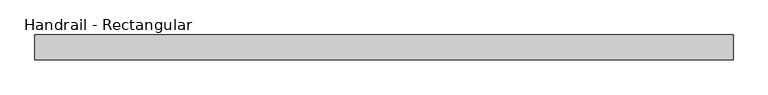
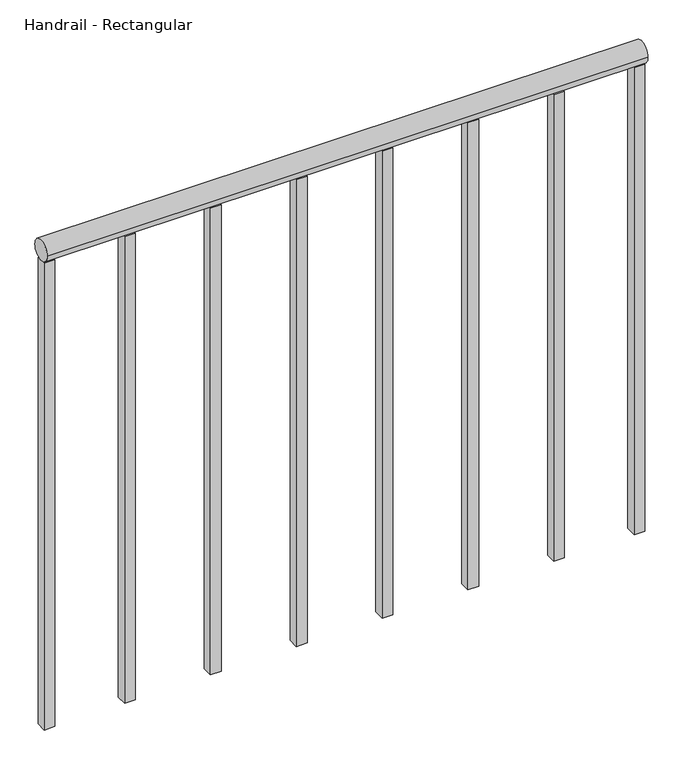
"""IFC4 building model written with IfcOpenShell, lengths in millimetres: railing geometry, Handrail - Rectangular."""

from ifc_helpers import new_model, si_unit, point, frame, frame_2d, origin, place, context, project, spatial, polyline, circle_curve, trimmed, segment, composite_curve, outline, extrude, source, transform, mapped, element, save


def handrail_rectangular_32c2d9bd(model_context):
    return source(origin(), model_context, "Body", "SweptSolid", [
        extrude(outline(composite_curve([segment(trimmed(circle_curve(frame_2d((-35553.1683133, 3943.35)), 19.05), [point((-35572.2183133, 3943.35))], [point((-35534.1183133, 3943.35))], False, "CARTESIAN"), True, "CONTINUOUS"), segment(trimmed(circle_curve(frame_2d((-35553.1683133, 3943.35)), 19.05), [point((-35534.1183133, 3943.35))], [point((-35572.2183133, 3943.35))], False, "CARTESIAN"), True, "CONTINUOUS")], self_intersect=False)), frame((-31964.2839563, 0.0, 0.0), z_axis=(1.0, 0.0, 0.0), x_axis=(0.0, 1.0, 0.0)), (0.0, 0.0, 1.0), 1066.8),
        extrude(outline(polyline([(-31802.3589563, -35543.6433133), (-31802.3589563, -35562.6933133), (-31821.4089563, -35562.6933133), (-31821.4089563, -35543.6433133), (-31802.3589563, -35543.6433133)])), frame((0.0, 0.0, 3048.0), z_axis=(0.0, 0.0, 1.0), x_axis=(1.0, 0.0, 0.0)), (0.0, 0.0, 1.0), 876.3),
        extrude(outline(polyline([(-31649.9589563, -35543.6433133), (-31649.9589563, -35562.6933133), (-31669.0089563, -35562.6933133), (-31669.0089563, -35543.6433133), (-31649.9589563, -35543.6433133)])), frame((0.0, 0.0, 3048.0), z_axis=(0.0, 0.0, 1.0), x_axis=(1.0, 0.0, 0.0)), (0.0, 0.0, 1.0), 876.3),
        extrude(outline(polyline([(-31497.5589563, -35543.6433133), (-31497.5589563, -35562.6933133), (-31516.6089563, -35562.6933133), (-31516.6089563, -35543.6433133), (-31497.5589563, -35543.6433133)])), frame((0.0, 0.0, 3048.0), z_axis=(0.0, 0.0, 1.0), x_axis=(1.0, 0.0, 0.0)), (0.0, 0.0, 1.0), 876.3),
        extrude(outline(polyline([(-31345.1589563, -35543.6433133), (-31345.1589563, -35562.6933133), (-31364.2089563, -35562.6933133), (-31364.2089563, -35543.6433133), (-31345.1589563, -35543.6433133)])), frame((0.0, 0.0, 3048.0), z_axis=(0.0, 0.0, 1.0), x_axis=(1.0, 0.0, 0.0)), (0.0, 0.0, 1.0), 876.3),
        extrude(outline(polyline([(-31192.7589563, -35543.6433133), (-31192.7589563, -35562.6933133), (-31211.8089563, -35562.6933133), (-31211.8089563, -35543.6433133), (-31192.7589563, -35543.6433133)])), frame((0.0, 0.0, 3048.0), z_axis=(0.0, 0.0, 1.0), x_axis=(1.0, 0.0, 0.0)), (0.0, 0.0, 1.0), 876.3),
        extrude(outline(polyline([(-31040.3589563, -35543.6433133), (-31040.3589563, -35562.6933133), (-31059.4089563, -35562.6933133), (-31059.4089563, -35543.6433133), (-31040.3589563, -35543.6433133)])), frame((0.0, 0.0, 3048.0), z_axis=(0.0, 0.0, 1.0), x_axis=(1.0, 0.0, 0.0)), (0.0, 0.0, 1.0), 876.3),
        extrude(outline(polyline([(-31945.2339563, -35543.6433133), (-31945.2339563, -35562.6933133), (-31964.2839563, -35562.6933133), (-31964.2839563, -35543.6433133), (-31945.2339563, -35543.6433133)])), frame((0.0, 0.0, 3048.0), z_axis=(0.0, 0.0, 1.0), x_axis=(1.0, 0.0, 0.0)), (0.0, 0.0, 1.0), 876.3),
        extrude(outline(polyline([(-30897.4839563, -35543.6433133), (-30897.4839563, -35562.6933133), (-30916.5339563, -35562.6933133), (-30916.5339563, -35543.6433133), (-30897.4839563, -35543.6433133)])), frame((0.0, 0.0, 3048.0), z_axis=(0.0, 0.0, 1.0), x_axis=(1.0, 0.0, 0.0)), (0.0, 0.0, 1.0), 876.3),
    ])


if __name__ == "__main__":
    model = new_model("IFC4")
    model_context = context("Model", 3, world=origin())
    ifc_project = project(units=[si_unit("LENGTHUNIT", "METRE", prefix="MILLI")], contexts=[model_context])
    site = spatial("IfcSite", under=ifc_project)
    building = spatial("IfcBuilding", under=site)
    placement = place(None, origin())
    handrail_rectangular_shape = handrail_rectangular_32c2d9bd(model_context)
    element("IfcRailing", 1, ObjectType="Handrail - Rectangular", at=placement, inside=building, context=model_context, shape_type="MappedRepresentation", body=[
        mapped(handrail_rectangular_shape, transform((0.0, 0.0, 0.0), x_axis=(1.0, 0.0, 0.0), y_axis=(0.0, 1.0, 0.0), z_axis=(0.0, 0.0, 1.0))),
    ])
    save(model, "model.ifc")
